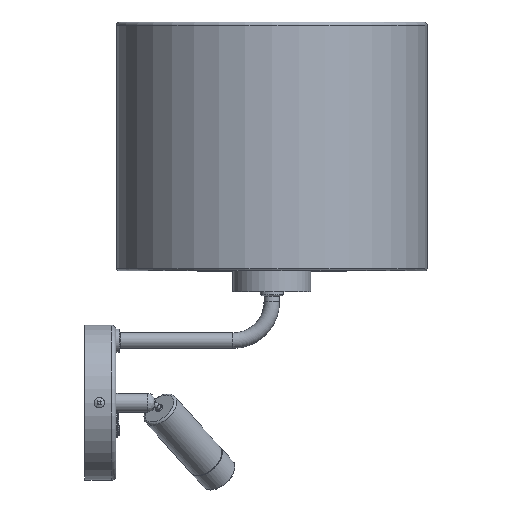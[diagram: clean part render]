
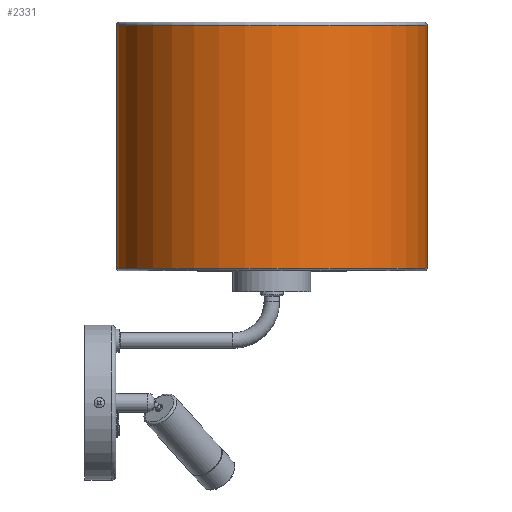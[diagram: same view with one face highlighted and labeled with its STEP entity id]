
A CAD part, top view. The second image highlights one B-rep face of the part: STEP entity #2331.
In plain terms, the highlighted cylindrical face has radius 100 mm (diameter 200 mm), a full revolution.
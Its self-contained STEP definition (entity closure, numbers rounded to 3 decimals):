
#360=FACE_OUTER_BOUND('',#540,.T.);
#540=EDGE_LOOP('',(#1861,#1862,#1863,#1864,#1865,#1866));
#726=LINE('',#4240,#843);
#843=VECTOR('',#3149,100.);
#943=CIRCLE('',#2621,100.);
#944=CIRCLE('',#2622,100.);
#946=CIRCLE('',#2625,100.);
#947=CIRCLE('',#2626,100.);
#1143=VERTEX_POINT('',#4233);
#1144=VERTEX_POINT('',#4234);
#1145=VERTEX_POINT('',#4239);
#1146=VERTEX_POINT('',#4241);
#1398=EDGE_CURVE('',#1143,#1144,#943,.T.);
#1399=EDGE_CURVE('',#1144,#1143,#944,.T.);
#1401=EDGE_CURVE('',#1144,#1145,#726,.T.);
#1402=EDGE_CURVE('',#1146,#1145,#946,.T.);
#1403=EDGE_CURVE('',#1145,#1146,#947,.T.);
#1861=ORIENTED_EDGE('',*,*,#1398,.F.);
#1862=ORIENTED_EDGE('',*,*,#1399,.F.);
#1863=ORIENTED_EDGE('',*,*,#1401,.T.);
#1864=ORIENTED_EDGE('',*,*,#1402,.F.);
#1865=ORIENTED_EDGE('',*,*,#1403,.F.);
#1866=ORIENTED_EDGE('',*,*,#1401,.F.);
#2228=CYLINDRICAL_SURFACE('',#2624,100.);
#2331=ADVANCED_FACE('',(#360),#2228,.T.);
#2621=AXIS2_PLACEMENT_3D('',#4235,#3141,#3142);
#2622=AXIS2_PLACEMENT_3D('',#4236,#3143,#3144);
#2624=AXIS2_PLACEMENT_3D('',#4238,#3147,#3148);
#2625=AXIS2_PLACEMENT_3D('',#4242,#3150,#3151);
#2626=AXIS2_PLACEMENT_3D('',#4243,#3152,#3153);
#3141=DIRECTION('center_axis',(0.,-1.,0.));
#3142=DIRECTION('ref_axis',(-1.,0.,0.));
#3143=DIRECTION('center_axis',(0.,-1.,0.));
#3144=DIRECTION('ref_axis',(-1.,0.,0.));
#3147=DIRECTION('center_axis',(0.,-1.,0.));
#3148=DIRECTION('ref_axis',(1.,0.,0.));
#3149=DIRECTION('',(0.,1.,0.));
#3150=DIRECTION('center_axis',(0.,1.,0.));
#3151=DIRECTION('ref_axis',(-1.,0.,0.));
#3152=DIRECTION('center_axis',(0.,1.,0.));
#3153=DIRECTION('ref_axis',(-1.,0.,0.));
#4233=CARTESIAN_POINT('',(0.,203.447,-100.));
#4234=CARTESIAN_POINT('',(-100.,203.447,0.));
#4235=CARTESIAN_POINT('Origin',(0.,203.447,0.));
#4236=CARTESIAN_POINT('Origin',(0.,203.447,0.));
#4238=CARTESIAN_POINT('Origin',(0.,361.947,0.));
#4239=CARTESIAN_POINT('',(-100.,359.947,0.));
#4240=CARTESIAN_POINT('',(-100.,361.947,0.));
#4241=CARTESIAN_POINT('',(0.,359.947,100.));
#4242=CARTESIAN_POINT('Origin',(0.,359.947,0.));
#4243=CARTESIAN_POINT('Origin',(0.,359.947,0.));
